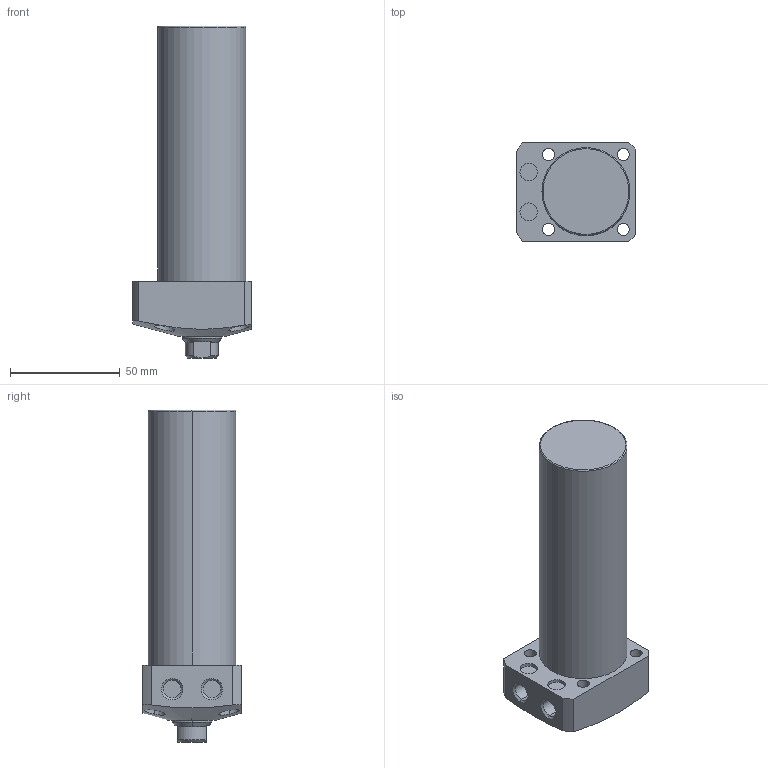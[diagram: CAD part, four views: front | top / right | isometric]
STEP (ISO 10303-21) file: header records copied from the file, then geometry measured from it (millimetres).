
FILE_DESCRIPTION (( 'STEP AP203' ), '1' );
FILE_NAME ('CLL-040CA-090.STEP', '2019-12-21T03:40:55', ( '' ), ( '' ), 'SwSTEP 2.0', 'SolidWorks 2015', '' );
FILE_SCHEMA (( 'CONFIG_CONTROL_DESIGN' ));
Length unit declared in the file: millimetre
Products named in the file (1): CLL-040CA-090
Bounding box: 54 x 45 x 151 mm (x, y, z)
Volume: 196208.2 mm3; surface area: 26679.3 mm2
Topology: 1 solids, 1 shells, 74 faces, 170 edges, 107 vertices
Faces by surface type: cylinder 35, plane 22, cone 15, torus 2
Entity records: 2505 total; most frequent: CARTESIAN_POINT 718, DIRECTION 374, ORIENTED_EDGE 336, EDGE_CURVE 168, AXIS2_PLACEMENT_3D 155, VERTEX_POINT 107, EDGE_LOOP 93, CIRCLE 80
